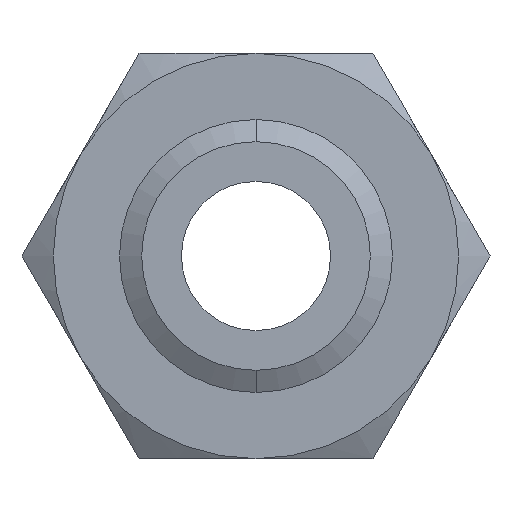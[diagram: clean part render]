
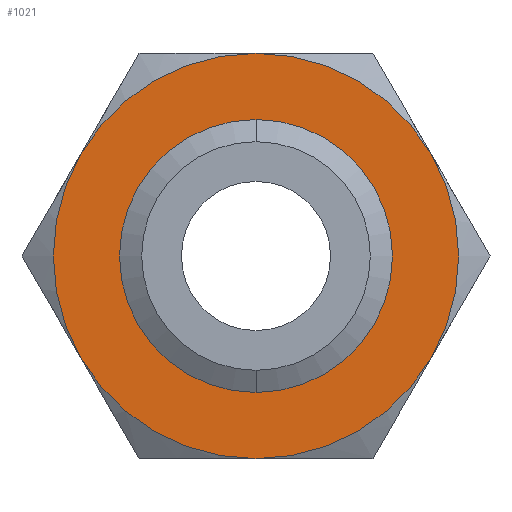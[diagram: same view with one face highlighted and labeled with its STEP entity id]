
A CAD part, front view. The second image highlights one B-rep face of the part: STEP entity #1021.
In plain terms, the highlighted planar face has unit normal (0, -1, 0).
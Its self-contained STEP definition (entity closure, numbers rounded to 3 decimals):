
#258 = CARTESIAN_POINT ( 'NONE',  ( 0., 0., 26.804 ) ) ;
#336 = CARTESIAN_POINT ( 'NONE',  ( 0., 0., -26.804 ) ) ;
#337 = DIRECTION ( 'NONE',  ( 0., 0., -1. ) ) ;
#338 = DIRECTION ( 'NONE',  ( 0., -1., 0. ) ) ;
#339 = CARTESIAN_POINT ( 'NONE',  ( 0., 0., 0. ) ) ;
#340 = AXIS2_PLACEMENT_3D ( 'NONE', #339, #338, #337 ) ;
#341 = CIRCLE ( 'NONE', #340, 26.804 ) ;
#976 = VERTEX_POINT ( 'NONE', #1789 ) ;
#978 = VERTEX_POINT ( 'NONE', #1788 ) ;
#981 = EDGE_LOOP ( 'NONE', ( #1004, #1002 ) ) ;
#986 = VERTEX_POINT ( 'NONE', #1783 ) ;
#1002 = ORIENTED_EDGE ( 'NONE', *, *, #1003, .F. ) ;
#1003 = EDGE_CURVE ( 'NONE', #2162, #2215, #1814, .T. ) ;
#1004 = ORIENTED_EDGE ( 'NONE', *, *, #2213, .F. ) ;
#1018 = EDGE_CURVE ( 'NONE', #978, #976, #1844, .T. ) ;
#1020 = ORIENTED_EDGE ( 'NONE', *, *, #1018, .F. ) ;
#1021 = ADVANCED_FACE ( 'NONE', ( #1839, #1838 ), #1837, .F. ) ;
#1022 = ORIENTED_EDGE ( 'NONE', *, *, #1024, .F. ) ;
#1023 = VERTEX_POINT ( 'NONE', #1835 ) ;
#1024 = EDGE_CURVE ( 'NONE', #976, #1023, #1831, .T. ) ;
#1025 = ORIENTED_EDGE ( 'NONE', *, *, #1026, .F. ) ;
#1026 = EDGE_CURVE ( 'NONE', #1023, #986, #1826, .T. ) ;
#1032 = VERTEX_POINT ( 'NONE', #1872 ) ;
#1033 = ORIENTED_EDGE ( 'NONE', *, *, #1036, .F. ) ;
#1034 = VERTEX_POINT ( 'NONE', #1871 ) ;
#1036 = EDGE_CURVE ( 'NONE', #986, #1032, #1866, .T. ) ;
#1037 = EDGE_CURVE ( 'NONE', #1032, #1034, #1861, .T. ) ;
#1038 = ORIENTED_EDGE ( 'NONE', *, *, #1037, .F. ) ;
#1039 = EDGE_CURVE ( 'NONE', #1034, #978, #1919, .T. ) ;
#1040 = ORIENTED_EDGE ( 'NONE', *, *, #1039, .F. ) ;
#1783 = CARTESIAN_POINT ( 'NONE',  ( 0., 0., -47.5 ) ) ;
#1788 = CARTESIAN_POINT ( 'NONE',  ( 0., 0., 47.5 ) ) ;
#1789 = CARTESIAN_POINT ( 'NONE',  ( 41.136, 0., 23.75 ) ) ;
#1810 = DIRECTION ( 'NONE',  ( 0., 0., -1. ) ) ;
#1811 = DIRECTION ( 'NONE',  ( 0., -1., 0. ) ) ;
#1812 = CARTESIAN_POINT ( 'NONE',  ( 0., 0., 0. ) ) ;
#1813 = AXIS2_PLACEMENT_3D ( 'NONE', #1812, #1811, #1810 ) ;
#1814 = CIRCLE ( 'NONE', #1813, 26.804 ) ;
#1826 = CIRCLE ( 'NONE', #1886, 47.5 ) ;
#1827 = DIRECTION ( 'NONE',  ( 0., 0., 1. ) ) ;
#1828 = DIRECTION ( 'NONE',  ( 0., 1., 0. ) ) ;
#1829 = CARTESIAN_POINT ( 'NONE',  ( 0., 0., 0. ) ) ;
#1830 = AXIS2_PLACEMENT_3D ( 'NONE', #1829, #1828, #1827 ) ;
#1831 = CIRCLE ( 'NONE', #1830, 47.5 ) ;
#1832 = DIRECTION ( 'NONE',  ( 0., 0., 1. ) ) ;
#1833 = DIRECTION ( 'NONE',  ( 0., 1., 0. ) ) ;
#1834 = CARTESIAN_POINT ( 'NONE',  ( 27.424, 0., -47.5 ) ) ;
#1835 = CARTESIAN_POINT ( 'NONE',  ( 41.136, 0., -23.75 ) ) ;
#1836 = AXIS2_PLACEMENT_3D ( 'NONE', #1834, #1833, #1832 ) ;
#1837 = PLANE ( 'NONE',  #1836 ) ;
#1838 = FACE_BOUND ( 'NONE', #981, .T. ) ;
#1839 = FACE_OUTER_BOUND ( 'NONE', #2102, .T. ) ;
#1840 = DIRECTION ( 'NONE',  ( 0., 0., 1. ) ) ;
#1841 = DIRECTION ( 'NONE',  ( 0., 1., 0. ) ) ;
#1842 = CARTESIAN_POINT ( 'NONE',  ( 0., 0., 0. ) ) ;
#1843 = AXIS2_PLACEMENT_3D ( 'NONE', #1842, #1841, #1840 ) ;
#1844 = CIRCLE ( 'NONE', #1843, 47.5 ) ;
#1856 = CARTESIAN_POINT ( 'NONE',  ( 0., 0., 0. ) ) ;
#1857 = DIRECTION ( 'NONE',  ( 0., 0., 1. ) ) ;
#1858 = DIRECTION ( 'NONE',  ( 0., 1., 0. ) ) ;
#1859 = CARTESIAN_POINT ( 'NONE',  ( 0., 0., 0. ) ) ;
#1860 = AXIS2_PLACEMENT_3D ( 'NONE', #1859, #1858, #1857 ) ;
#1861 = CIRCLE ( 'NONE', #1860, 47.5 ) ;
#1862 = DIRECTION ( 'NONE',  ( 0., 0., 1. ) ) ;
#1863 = DIRECTION ( 'NONE',  ( 0., 1., 0. ) ) ;
#1864 = CARTESIAN_POINT ( 'NONE',  ( 0., 0., 0. ) ) ;
#1865 = AXIS2_PLACEMENT_3D ( 'NONE', #1864, #1863, #1862 ) ;
#1866 = CIRCLE ( 'NONE', #1865, 47.5 ) ;
#1871 = CARTESIAN_POINT ( 'NONE',  ( -41.136, 0., 23.75 ) ) ;
#1872 = CARTESIAN_POINT ( 'NONE',  ( -41.136, 0., -23.75 ) ) ;
#1883 = DIRECTION ( 'NONE',  ( 0., 0., 1. ) ) ;
#1884 = DIRECTION ( 'NONE',  ( 0., 1., 0. ) ) ;
#1885 = CARTESIAN_POINT ( 'NONE',  ( 0., 0., 0. ) ) ;
#1886 = AXIS2_PLACEMENT_3D ( 'NONE', #1885, #1884, #1883 ) ;
#1916 = DIRECTION ( 'NONE',  ( 0., 0., 1. ) ) ;
#1917 = DIRECTION ( 'NONE',  ( 0., 1., 0. ) ) ;
#1918 = AXIS2_PLACEMENT_3D ( 'NONE', #1856, #1917, #1916 ) ;
#1919 = CIRCLE ( 'NONE', #1918, 47.5 ) ;
#2102 = EDGE_LOOP ( 'NONE', ( #1020, #1040, #1038, #1033, #1025, #1022 ) ) ;
#2162 = VERTEX_POINT ( 'NONE', #258 ) ;
#2213 = EDGE_CURVE ( 'NONE', #2215, #2162, #341, .T. ) ;
#2215 = VERTEX_POINT ( 'NONE', #336 ) ;
